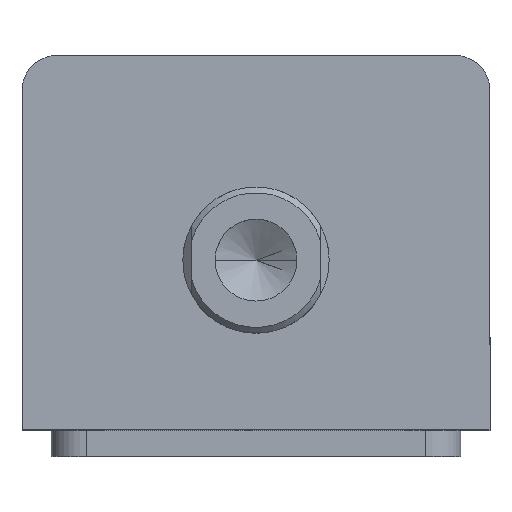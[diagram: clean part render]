
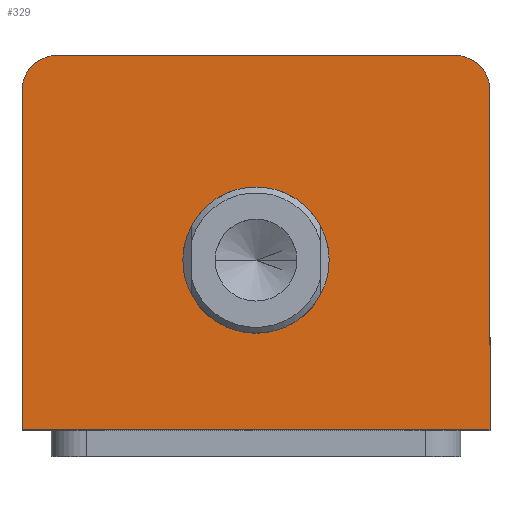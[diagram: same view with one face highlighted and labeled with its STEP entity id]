
A CAD part, top view. The second image highlights one B-rep face of the part: STEP entity #329.
In plain terms, the highlighted planar face has unit normal (0, 0, 1).
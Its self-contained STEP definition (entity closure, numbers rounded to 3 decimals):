
#329 = ADVANCED_FACE ( 'NONE', ( #1397, #1400 ), #2707, .T. ) ;
#415 = DIRECTION ( 'NONE',  ( 1., 0., 0. ) ) ;
#417 = DIRECTION ( 'NONE',  ( 0., 0., 1. ) ) ;
#423 = CARTESIAN_POINT ( 'NONE',  ( 34., 26., 80. ) ) ;
#494 = DIRECTION ( 'NONE',  ( 0., 1., 0. ) ) ;
#495 = CARTESIAN_POINT ( 'NONE',  ( 40., 32., 80. ) ) ;
#554 = DIRECTION ( 'NONE',  ( 1., 0., 0. ) ) ;
#555 = DIRECTION ( 'NONE',  ( 0., 0., 1. ) ) ;
#557 = CARTESIAN_POINT ( 'NONE',  ( 0., -3., 80. ) ) ;
#593 = DIRECTION ( 'NONE',  ( 0., -1., 0. ) ) ;
#595 = CARTESIAN_POINT ( 'NONE',  ( -40., 32., 80. ) ) ;
#607 = DIRECTION ( 'NONE',  ( 1., 0., 0. ) ) ;
#608 = DIRECTION ( 'NONE',  ( 0., 0., 1. ) ) ;
#609 = CARTESIAN_POINT ( 'NONE',  ( -34., 26., 80. ) ) ;
#610 = DIRECTION ( 'NONE',  ( -1., 0., 0. ) ) ;
#616 = CARTESIAN_POINT ( 'NONE',  ( -40., 32., 80. ) ) ;
#693 = ORIENTED_EDGE ( 'NONE', *, *, #1977, .T. ) ;
#694 = ORIENTED_EDGE ( 'NONE', *, *, #1969, .T. ) ;
#695 = ORIENTED_EDGE ( 'NONE', *, *, #1930, .T. ) ;
#696 = ORIENTED_EDGE ( 'NONE', *, *, #1990, .T. ) ;
#697 = ORIENTED_EDGE ( 'NONE', *, *, #1986, .T. ) ;
#698 = ORIENTED_EDGE ( 'NONE', *, *, #1949, .T. ) ;
#699 = ORIENTED_EDGE ( 'NONE', *, *, #1902, .F. ) ;
#700 = ORIENTED_EDGE ( 'NONE', *, *, #2003, .F. ) ;
#873 = VERTEX_POINT ( 'NONE', #2978 ) ;
#879 = VERTEX_POINT ( 'NONE', #2984 ) ;
#882 = VERTEX_POINT ( 'NONE', #2988 ) ;
#912 = VERTEX_POINT ( 'NONE', #2922 ) ;
#926 = VERTEX_POINT ( 'NONE', #2902 ) ;
#931 = VERTEX_POINT ( 'NONE', #2900 ) ;
#937 = VERTEX_POINT ( 'NONE', #2864 ) ;
#958 = VERTEX_POINT ( 'NONE', #2842 ) ;
#979 = EDGE_LOOP ( 'NONE', ( #698, #697, #696, #695, #694, #693 ) ) ;
#990 = EDGE_LOOP ( 'NONE', ( #700, #699 ) ) ;
#1397 = FACE_BOUND ( 'NONE', #990, .T. ) ;
#1400 = FACE_OUTER_BOUND ( 'NONE', #979, .T. ) ;
#1547 = CIRCLE ( 'NONE', #2233, 12.5 ) ;
#1591 = LINE ( 'NONE', #3426, #1598 ) ;
#1598 = VECTOR ( 'NONE', #3414, 1000. ) ;
#1633 = LINE ( 'NONE', #616, #1636 ) ;
#1636 = VECTOR ( 'NONE', #610, 1000. ) ;
#1678 = LINE ( 'NONE', #495, #1682 ) ;
#1682 = VECTOR ( 'NONE', #494, 1000. ) ;
#1688 = CIRCLE ( 'NONE', #2261, 6. ) ;
#1701 = CIRCLE ( 'NONE', #2268, 6. ) ;
#1707 = LINE ( 'NONE', #595, #1710 ) ;
#1710 = VECTOR ( 'NONE', #593, 1000. ) ;
#1733 = CIRCLE ( 'NONE', #2270, 12.5 ) ;
#1902 = EDGE_CURVE ( 'NONE', #879, #873, #1547, .T. ) ;
#1930 = EDGE_CURVE ( 'NONE', #926, #958, #1591, .T. ) ;
#1949 = EDGE_CURVE ( 'NONE', #882, #931, #1633, .T. ) ;
#1969 = EDGE_CURVE ( 'NONE', #958, #912, #1678, .T. ) ;
#1977 = EDGE_CURVE ( 'NONE', #912, #882, #1688, .T. ) ;
#1986 = EDGE_CURVE ( 'NONE', #931, #937, #1701, .T. ) ;
#1990 = EDGE_CURVE ( 'NONE', #937, #926, #1707, .T. ) ;
#2003 = EDGE_CURVE ( 'NONE', #873, #879, #1733, .T. ) ;
#2168 = AXIS2_PLACEMENT_3D ( 'NONE', #2708, #2716, #2717 ) ;
#2233 = AXIS2_PLACEMENT_3D ( 'NONE', #3495, #3494, #3493 ) ;
#2261 = AXIS2_PLACEMENT_3D ( 'NONE', #423, #417, #415 ) ;
#2268 = AXIS2_PLACEMENT_3D ( 'NONE', #609, #608, #607 ) ;
#2270 = AXIS2_PLACEMENT_3D ( 'NONE', #557, #555, #554 ) ;
#2707 = PLANE ( 'NONE',  #2168 ) ;
#2708 = CARTESIAN_POINT ( 'NONE',  ( 0., 0., 80. ) ) ;
#2716 = DIRECTION ( 'NONE',  ( 0., 0., 1. ) ) ;
#2717 = DIRECTION ( 'NONE',  ( 1., 0., 0. ) ) ;
#2842 = CARTESIAN_POINT ( 'NONE',  ( 40., -32., 80. ) ) ;
#2864 = CARTESIAN_POINT ( 'NONE',  ( -40., 26., 80. ) ) ;
#2900 = CARTESIAN_POINT ( 'NONE',  ( -34., 32., 80. ) ) ;
#2902 = CARTESIAN_POINT ( 'NONE',  ( -40., -32., 80. ) ) ;
#2922 = CARTESIAN_POINT ( 'NONE',  ( 40., 26., 80. ) ) ;
#2978 = CARTESIAN_POINT ( 'NONE',  ( 12.5, -3., 80. ) ) ;
#2984 = CARTESIAN_POINT ( 'NONE',  ( -12.5, -3., 80. ) ) ;
#2988 = CARTESIAN_POINT ( 'NONE',  ( 34., 32., 80. ) ) ;
#3414 = DIRECTION ( 'NONE',  ( 1., 0., 0. ) ) ;
#3426 = CARTESIAN_POINT ( 'NONE',  ( -40., -32., 80. ) ) ;
#3493 = DIRECTION ( 'NONE',  ( 1., 0., 0. ) ) ;
#3494 = DIRECTION ( 'NONE',  ( 0., 0., 1. ) ) ;
#3495 = CARTESIAN_POINT ( 'NONE',  ( 0., -3., 80. ) ) ;
